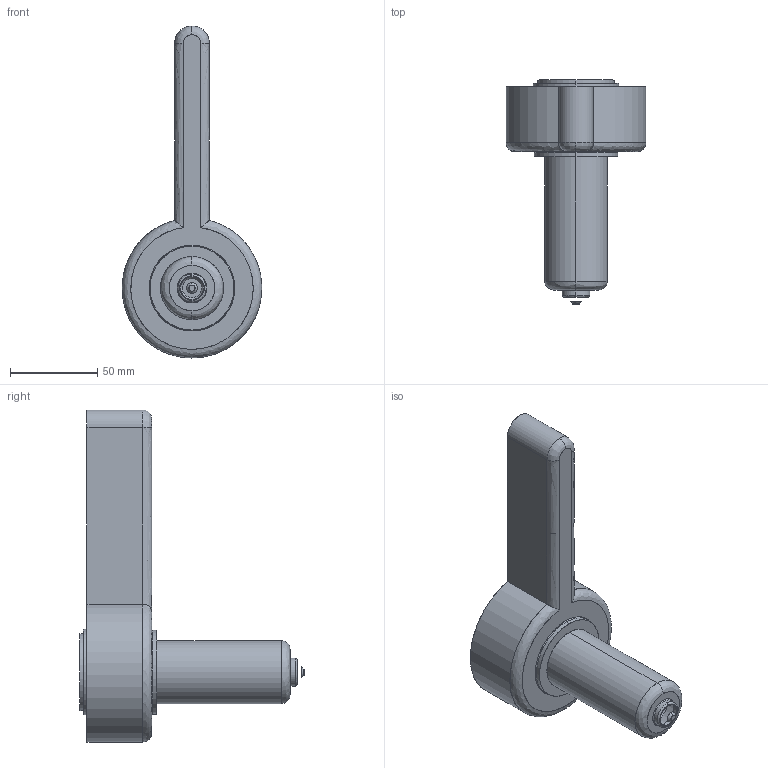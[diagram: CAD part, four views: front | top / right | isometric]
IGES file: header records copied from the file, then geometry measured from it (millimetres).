
Start section: SolidWorks IGES file using analytic representation for surfaces
Global section: file name: C:\Documents and Settings\ws-20\Desktop\TEM\Sede UGEP5502-S-A C-84 L-121 Ød-3.5.IGS; native system: SolidWorks 2012; preprocessor: SolidWorks 2012; author: ws-20; date: 120427.085600; units: millimetre
Bounding box: 79.97 x 128.21 x 190 mm (x, y, z)
Surface area: 40152.8 mm2 (no closed solid volume)
Topology: 0 solids, 0 shells, 44 faces, 952 edges, 952 vertices
Faces by surface type: revolution 27, bspline 17
